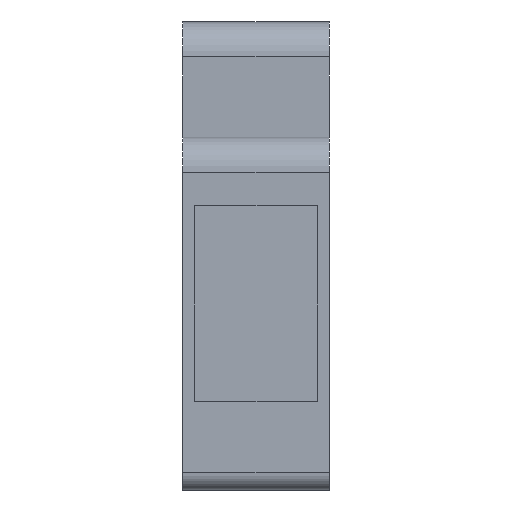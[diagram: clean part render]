
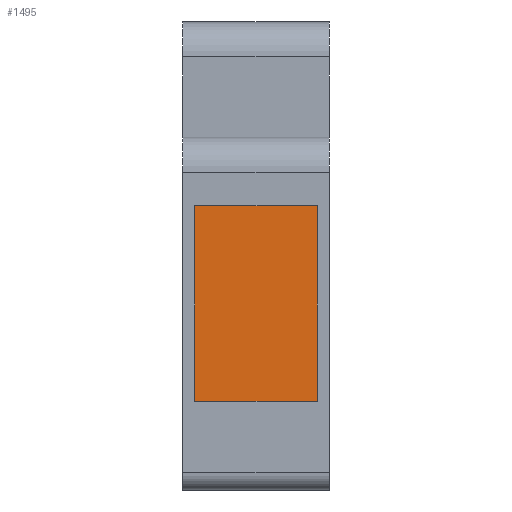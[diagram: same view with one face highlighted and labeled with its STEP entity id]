
A CAD part, left-side view. The second image highlights one B-rep face of the part: STEP entity #1495.
In plain terms, the highlighted planar face has unit normal (-1, 0, 0).
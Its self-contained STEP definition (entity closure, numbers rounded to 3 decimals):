
#205=ORIENTED_EDGE('',*,*,#642,.F.);
#206=ORIENTED_EDGE('',*,*,#638,.F.);
#207=ORIENTED_EDGE('',*,*,#643,.F.);
#208=ORIENTED_EDGE('',*,*,#636,.F.);
#636=EDGE_CURVE('',#849,#850,#981,.T.);
#638=EDGE_CURVE('',#851,#852,#983,.T.);
#642=EDGE_CURVE('',#852,#849,#987,.T.);
#643=EDGE_CURVE('',#850,#851,#988,.T.);
#849=VERTEX_POINT('',#2323);
#850=VERTEX_POINT('',#2325);
#851=VERTEX_POINT('',#2329);
#852=VERTEX_POINT('',#2330);
#981=LINE('',#2324,#1156);
#983=LINE('',#2328,#1158);
#987=LINE('',#2337,#1162);
#988=LINE('',#2338,#1163);
#1156=VECTOR('',#1849,1000.);
#1158=VECTOR('',#1853,1000.);
#1162=VECTOR('',#1859,1000.);
#1163=VECTOR('',#1860,1000.);
#1278=EDGE_LOOP('',(#205,#206,#207,#208));
#1360=FACE_BOUND('',#1278,.T.);
#1438=PLANE('',#1613);
#1495=ADVANCED_FACE('',(#1360),#1438,.F.);
#1613=AXIS2_PLACEMENT_3D('',#2336,#1857,#1858);
#1849=DIRECTION('',(0.,-1.,0.));
#1853=DIRECTION('',(0.,1.,0.));
#1857=DIRECTION('',(1.,0.,0.));
#1858=DIRECTION('',(0.,0.,-1.));
#1859=DIRECTION('',(0.,0.,1.));
#1860=DIRECTION('',(0.,0.,-1.));
#2323=CARTESIAN_POINT('',(-42.25,19.25,7.2));
#2324=CARTESIAN_POINT('',(-42.25,51.75,7.2));
#2325=CARTESIAN_POINT('',(-42.25,1.75,7.2));
#2328=CARTESIAN_POINT('',(-42.25,51.75,-20.8));
#2329=CARTESIAN_POINT('',(-42.25,1.75,-20.8));
#2330=CARTESIAN_POINT('',(-42.25,19.25,-20.8));
#2336=CARTESIAN_POINT('',(-42.25,0.,0.));
#2337=CARTESIAN_POINT('',(-42.25,19.25,0.));
#2338=CARTESIAN_POINT('',(-42.25,1.75,7.2));
